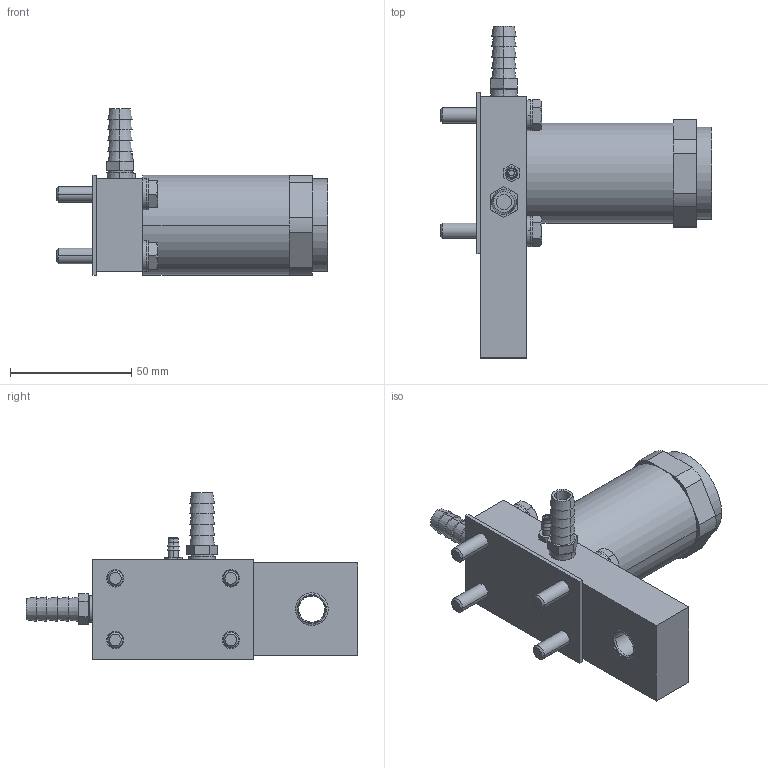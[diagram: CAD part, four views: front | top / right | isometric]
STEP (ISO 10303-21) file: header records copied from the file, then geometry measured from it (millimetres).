
FILE_DESCRIPTION((''),'2;1');
FILE_NAME('XJ4_ASM','2017-08-24T',('jennifer.elliott'),('CenterLine (Windsor) Ltd - Automation Components Division'),'PRO/ENGINEER BY PARAMETRIC TECHNOLOGY CORPORATION, 2015030','PRO/ENGINEER BY PARAMETRIC TECHNOLOGY CORPORATION, 2015030','');
FILE_SCHEMA(('AUTOMOTIVE_DESIGN { 1 0 10303 214 1 1 1 1 }'));
Length unit declared in the file: inch
Products named in the file (22): PRT1306; PRT1307; PRT1308; PRT1309; PRT1310; PRT1311; PRT1312; PRT1313; PRT1314; PRT1315; PRT1316; PRT1317; PRT1318; PRT1319; PRT1320; PRT1321; PRT1322; PRT1323; PRT1324; PRT1325; PRT1326; XJ4_ASM
Assembly tree (21 placements, depth 2):
  XJ4_ASM
    PRT1306
    PRT1307
    PRT1308
    PRT1309
    PRT1310
    PRT1311
    PRT1312
    PRT1313
    PRT1314
    PRT1315
    PRT1316
    PRT1317
    PRT1318
    PRT1319
    PRT1320
    PRT1321
    PRT1322
    PRT1323
    PRT1324
    PRT1325
    PRT1326
Bounding box: 111.95 x 136.91 x 68.64 mm (x, y, z)
Volume: 188701.9 mm3; surface area: 53401 mm2
Topology: 21 solids, 21 shells, 289 faces, 636 edges, 414 vertices
Faces by surface type: plane 123, cylinder 94, cone 68, torus 4
Entity records: 9689 total; most frequent: CARTESIAN_POINT 1698, DIRECTION 1558, ORIENTED_EDGE 1272, AXIS2_PLACEMENT_3D 638, EDGE_CURVE 636, VERTEX_POINT 414, EDGE_LOOP 356, CIRCLE 306
